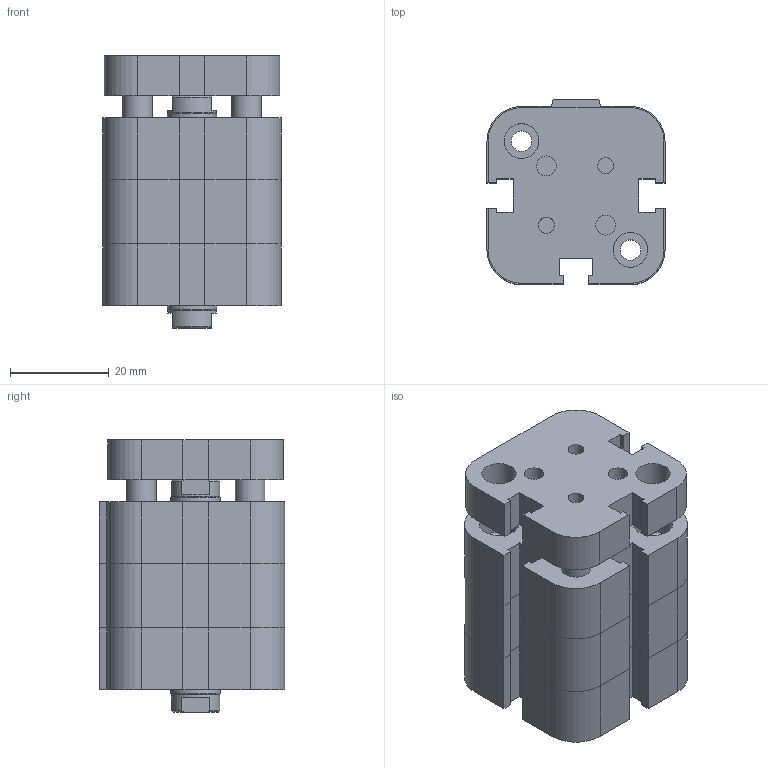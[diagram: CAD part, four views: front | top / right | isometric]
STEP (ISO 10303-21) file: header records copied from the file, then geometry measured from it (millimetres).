
FILE_DESCRIPTION((''),'2;1');
FILE_NAME('I:\Area Tecnica\Disegni\VARIE-3D\Componenti\EUROPE\15##_###_####_08_#\1581_20_0000_08_1.iam.stp','2009-04-20T15:30:12',(''),(''),'Autodesk Inventor 2009','Autodesk Inventor 2009','');
FILE_SCHEMA(('AUTOMOTIVE_DESIGN { 1 0 10303 214 1 1 1 1 }'));
Length unit declared in the file: millimetre
Products named in the file (3): 1581_20_0000_08_1; 1581_20_0000_08_1_C; 1561_20_0000_08_1_SA
Assembly tree (2 placements, depth 2):
  1581_20_0000_08_1
    1581_20_0000_08_1_C
    1561_20_0000_08_1_SA
Bounding box: 36 x 37.5 x 55 mm (x, y, z)
Volume: 50560.2 mm3; surface area: 19070.2 mm2
Topology: 2 solids, 2 shells, 203 faces, 482 edges, 300 vertices
Faces by surface type: plane 135, bspline 41, cylinder 21, cone 6
Full cylindrical faces by diameter (mm): 6 x2, 9.8 x2, 10 x1
Entity records: 6030 total; most frequent: CARTESIAN_POINT 1393, ORIENTED_EDGE 876, DIRECTION 854, EDGE_CURVE 438, VECTOR 340, LINE 340, VERTEX_POINT 286, EDGE_LOOP 268
